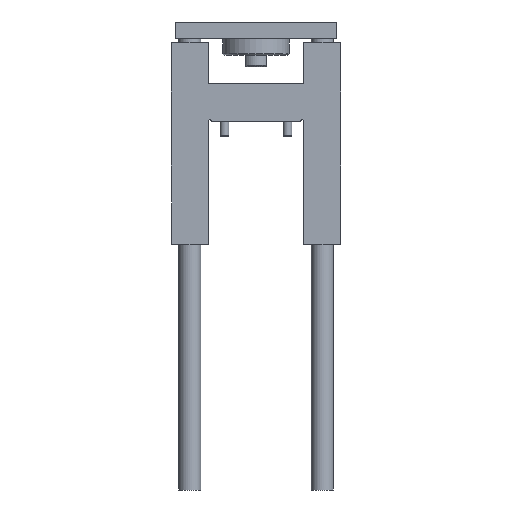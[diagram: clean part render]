
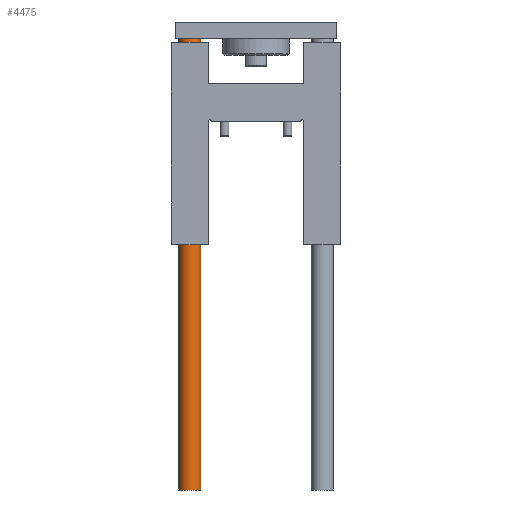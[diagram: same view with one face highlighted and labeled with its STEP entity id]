
A CAD part, front view. The second image highlights one B-rep face of the part: STEP entity #4475.
In plain terms, the highlighted cylindrical face has radius 10 mm (diameter 20 mm), a partial arc.
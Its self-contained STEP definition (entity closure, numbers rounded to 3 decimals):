
#253 = CIRCLE ( 'NONE', #7506, 10. ) ;
#321 = EDGE_CURVE ( 'NONE', #8998, #7536, #5310, .T. ) ;
#391 = VERTEX_POINT ( 'NONE', #1554 ) ;
#1375 = ORIENTED_EDGE ( 'NONE', *, *, #10281, .T. ) ;
#1527 = DIRECTION ( 'NONE',  ( 0., 0., -1. ) ) ;
#1554 = CARTESIAN_POINT ( 'NONE',  ( -69.5, 0., 74. ) ) ;
#1771 = ORIENTED_EDGE ( 'NONE', *, *, #3783, .F. ) ;
#1846 = EDGE_CURVE ( 'NONE', #391, #6580, #253, .T. ) ;
#2327 = CARTESIAN_POINT ( 'NONE',  ( -59.5, 0., 74. ) ) ;
#2332 = DIRECTION ( 'NONE',  ( 1., 0., 0. ) ) ;
#2684 = ORIENTED_EDGE ( 'NONE', *, *, #1846, .F. ) ;
#3061 = DIRECTION ( 'NONE',  ( 1., 0., 0. ) ) ;
#3402 = DIRECTION ( 'NONE',  ( 0., 0., -1. ) ) ;
#3511 = EDGE_LOOP ( 'NONE', ( #2684, #1375, #4141, #1771 ) ) ;
#3783 = EDGE_CURVE ( 'NONE', #6580, #7536, #4097, .T. ) ;
#4047 = CARTESIAN_POINT ( 'NONE',  ( -69.5, 0., -331. ) ) ;
#4097 = LINE ( 'NONE', #8760, #8790 ) ;
#4141 = ORIENTED_EDGE ( 'NONE', *, *, #321, .T. ) ;
#4303 = AXIS2_PLACEMENT_3D ( 'NONE', #10248, #6238, #2332 ) ;
#4475 = ADVANCED_FACE ( 'NONE', ( #4701 ), #7928, .T. ) ;
#4701 = FACE_OUTER_BOUND ( 'NONE', #3511, .T. ) ;
#5179 = DIRECTION ( 'NONE',  ( 1., 0., 0. ) ) ;
#5236 = DIRECTION ( 'NONE',  ( 0., 0., 1. ) ) ;
#5310 = CIRCLE ( 'NONE', #6659, 10. ) ;
#5486 = DIRECTION ( 'NONE',  ( 0., 0., 1. ) ) ;
#6238 = DIRECTION ( 'NONE',  ( 0., 0., -1. ) ) ;
#6419 = VECTOR ( 'NONE', #3402, 1000. ) ;
#6580 = VERTEX_POINT ( 'NONE', #7642 ) ;
#6659 = AXIS2_PLACEMENT_3D ( 'NONE', #8568, #5236, #5179 ) ;
#7362 = CARTESIAN_POINT ( 'NONE',  ( -69.5, 0., -331. ) ) ;
#7463 = LINE ( 'NONE', #7362, #6419 ) ;
#7506 = AXIS2_PLACEMENT_3D ( 'NONE', #2327, #5486, #3061 ) ;
#7536 = VERTEX_POINT ( 'NONE', #8048 ) ;
#7642 = CARTESIAN_POINT ( 'NONE',  ( -49.5, 0., 74. ) ) ;
#7928 = CYLINDRICAL_SURFACE ( 'NONE', #4303, 10. ) ;
#8048 = CARTESIAN_POINT ( 'NONE',  ( -49.5, 0., -331. ) ) ;
#8568 = CARTESIAN_POINT ( 'NONE',  ( -59.5, 0., -331. ) ) ;
#8760 = CARTESIAN_POINT ( 'NONE',  ( -49.5, 0., -331. ) ) ;
#8790 = VECTOR ( 'NONE', #1527, 1000. ) ;
#8998 = VERTEX_POINT ( 'NONE', #4047 ) ;
#10248 = CARTESIAN_POINT ( 'NONE',  ( -59.5, 0., -331. ) ) ;
#10281 = EDGE_CURVE ( 'NONE', #391, #8998, #7463, .T. ) ;
